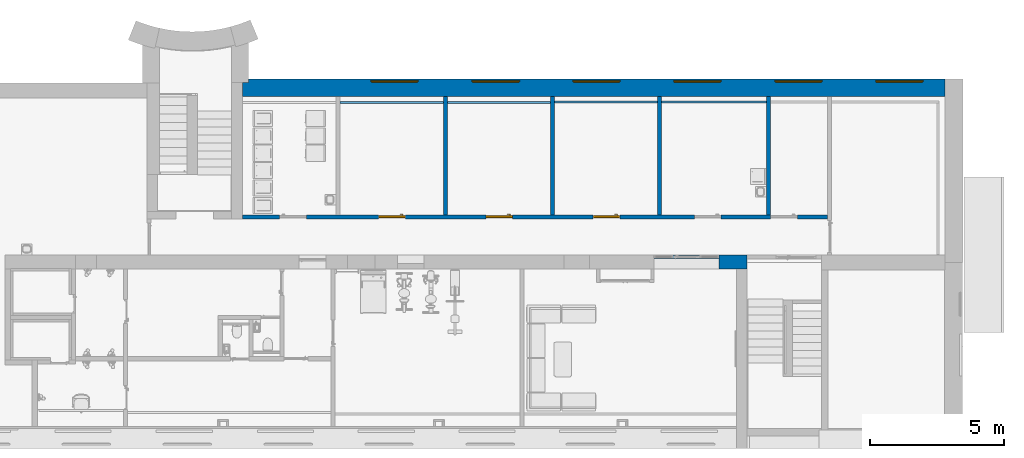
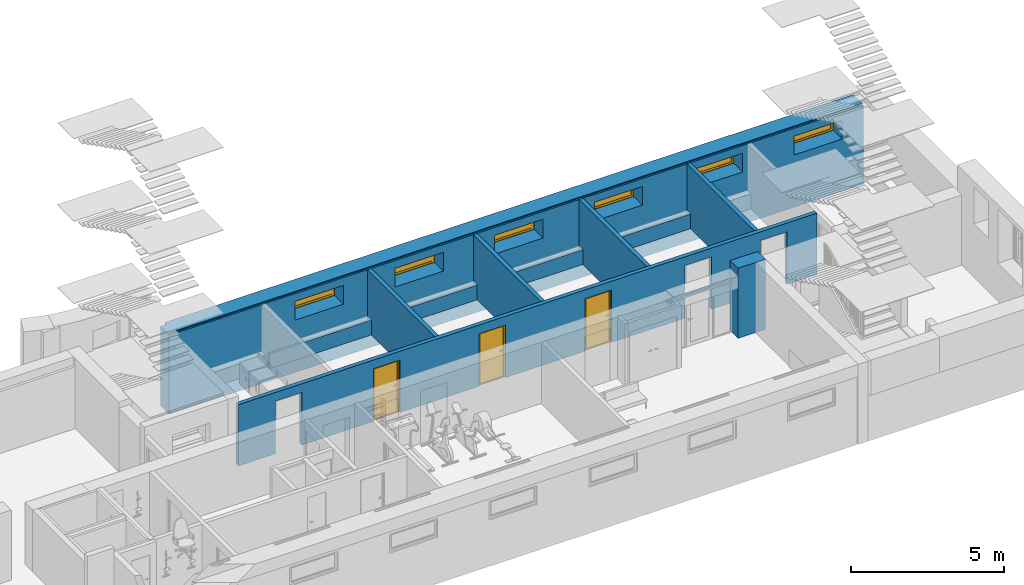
# One storey, part 6 of 23: 12 walls, 6 windows, 3 doors, 14 openings.
"""IFC2X3 building model written with IfcOpenShell, lengths in millimetres."""

from ifc_helpers import new_model, entity, si_unit, converted_unit, derived_unit, direction, frame, frame_2d, origin, origin_2d_with_axis, place, context, subcontext, project, spatial, polyline, rectangle, outline, extrude, clip, bounded_halfspace, faceted_brep, source, transform, mapped, material, material_list, layer, layer_set, layer_usage, type_object, type_shapes, element, fill, save


model = new_model("IFC2X3")

# Units and contexts
model_context = context("Model", 3, precision=0.01, world=origin(), true_north=direction((6.12303176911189e-17, 1.0)))
body_context = subcontext(model_context, "Body", "Model", "MODEL_VIEW")
ifc_project = project(units=[si_unit("LENGTHUNIT", "METRE", prefix="MILLI"), si_unit("AREAUNIT", "SQUARE_METRE"), si_unit("VOLUMEUNIT", "CUBIC_METRE"), converted_unit("PLANEANGLEUNIT", "DEGREE", entity("IfcRatioMeasure", 0.0174532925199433), si_unit("PLANEANGLEUNIT", "RADIAN"), dimensions=[0, 0, 0, 0, 0, 0, 0]), si_unit("MASSUNIT", "GRAM", prefix="KILO"), derived_unit("MASSDENSITYUNIT", [(si_unit("MASSUNIT", "GRAM", prefix="KILO"), 1), (si_unit("LENGTHUNIT", "METRE"), -3)]), si_unit("TIMEUNIT", "SECOND"), si_unit("FREQUENCYUNIT", "HERTZ"), si_unit("THERMODYNAMICTEMPERATUREUNIT", "DEGREE_CELSIUS"), derived_unit("THERMALTRANSMITTANCEUNIT", [(si_unit("MASSUNIT", "GRAM", prefix="KILO"), 1), (si_unit("THERMODYNAMICTEMPERATUREUNIT", "KELVIN"), -1), (si_unit("TIMEUNIT", "SECOND"), -3)]), derived_unit("VOLUMETRICFLOWRATEUNIT", [(si_unit("LENGTHUNIT", "METRE"), 3), (si_unit("TIMEUNIT", "SECOND"), -1)]), si_unit("ELECTRICCURRENTUNIT", "AMPERE"), si_unit("ELECTRICVOLTAGEUNIT", "VOLT"), si_unit("POWERUNIT", "WATT"), si_unit("FORCEUNIT", "NEWTON", prefix="KILO"), si_unit("ILLUMINANCEUNIT", "LUX"), si_unit("LUMINOUSFLUXUNIT", "LUMEN"), si_unit("LUMINOUSINTENSITYUNIT", "CANDELA"), derived_unit("USERDEFINED", [(si_unit("MASSUNIT", "GRAM", prefix="KILO"), -1), (si_unit("LENGTHUNIT", "METRE"), -2), (si_unit("TIMEUNIT", "SECOND"), 3), (si_unit("LUMINOUSFLUXUNIT", "LUMEN"), 1)]), derived_unit("LINEARVELOCITYUNIT", [(si_unit("LENGTHUNIT", "METRE"), 1), (si_unit("TIMEUNIT", "SECOND"), -1)]), si_unit("PRESSUREUNIT", "PASCAL"), derived_unit("USERDEFINED", [(si_unit("LENGTHUNIT", "METRE"), -2), (si_unit("MASSUNIT", "GRAM", prefix="KILO"), 1), (si_unit("TIMEUNIT", "SECOND"), -2)]), derived_unit("LINEARFORCEUNIT", [(si_unit("MASSUNIT", "GRAM", prefix="KILO"), 1), (si_unit("LENGTHUNIT", "METRE"), 1), (si_unit("TIMEUNIT", "SECOND"), -2), (si_unit("LENGTHUNIT", "METRE"), -1)]), derived_unit("PLANARFORCEUNIT", [(si_unit("MASSUNIT", "GRAM", prefix="KILO"), 1), (si_unit("LENGTHUNIT", "METRE"), 1), (si_unit("TIMEUNIT", "SECOND"), -2), (si_unit("LENGTHUNIT", "METRE"), -2)])], contexts=[model_context])

# Site, building, storey
site_placement = place(None, origin())
site = spatial("IfcSite", under=ifc_project, at=site_placement, Name="Default", CompositionType="ELEMENT")
building_placement = place(site_placement, origin())
building = spatial("IfcBuilding", under=site, at=building_placement, Name="SMA ARH", CompositionType="ELEMENT")
storey_placement = place(building_placement, frame((0.0, 0.0, -2800.0)))
storey = spatial("IfcBuildingStorey", under=building, at=storey_placement, Name="0 Sokkel", CompositionType="ELEMENT", Elevation=-2800.0)

# Wall, openings, windows
ifc_material_1 = material(Name="_ol.olev sein")
ifc_layer_1 = layer(ifc_material_1, 665.0)
ifc_layer_set_1 = layer_set([ifc_layer_1], Name="Basic Wall:Generic - 665mm")
ifc_layer_usage_1 = layer_usage(ifc_layer_set_1, "AXIS2", "POSITIVE", -332.5)
wall_type_1 = type_object("IfcWallType", Name="Basic Wall:Generic - 665mm", PredefinedType="STANDARD", material=ifc_layer_set_1)
wall_1_placement = place(storey_placement, frame((38235.0, 12767.4999999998, -696.284035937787), z_axis=(0.0, 0.0, 1.0), x_axis=(-1.0, 0.0, 0.0)))
wall_1 = element("IfcWallStandardCase", 1, at=wall_1_placement, inside=storey, type_object=wall_type_1, material=ifc_layer_usage_1, Name="Basic Wall:Generic - 665mm", ObjectType="Basic Wall:Generic - 665mm", context=body_context, shape_type="Clipping", body=[
    clip(clip(extrude(outline(polyline([(26005.0, -332.499999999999), (26005.0, -207.499999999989), (26235.0, -207.499999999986), (26235.0, 332.5), (0.0, 332.5), (0.0, -332.5), (26005.0, -332.499999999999)])), origin(), (0.0, 0.0, 1.0), 3186.28403593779), bounded_halfspace(frame((0.0, 267.500000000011, 3146.28403593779), z_axis=(0.0, 0.0, -1.0), x_axis=(1.0, 0.0, 0.0)), True, frame((0.0, 267.500000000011, 3146.28403593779), z_axis=(0.0, 0.0, -1.0), x_axis=(1.0, 0.0, 0.0)), polyline([(0.0, 0.0), (0.0, -65.0), (4235.0, -65.0), (4385.0, -65.0), (6515.0, -65.0), (6665.0, -65.0), (10585.0, -65.0), (10735.0, -65.0), (14585.0, -65.0), (14735.0, -65.0), (18585.0, -65.0), (18735.0, -65.0), (22585.0, -65.0), (22735.0, -65.0), (26235.0, -65.0), (26235.0, 0.0), (0.0, 0.0)]))), bounded_halfspace(frame((26235.0, 267.500000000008, 3146.28403593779), z_axis=(0.0, -1.0, 0.0), x_axis=(0.0, 0.0, 1.0)), True, frame((26235.0, 267.500000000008, 3146.28403593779), z_axis=(0.0, -1.0, 0.0), x_axis=(0.0, 0.0, 1.0)), polyline([(0.0, 0.0), (40.0, 0.0), (40.0, 26235.0), (0.0, 26235.0), (0.0, 0.0)]))),
])
opening_1_placement = place(wall_1_placement, frame((21465.0, 332.499999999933, 2086.28403593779)))
opening_1 = element("IfcOpeningElement", 2, at=opening_1_placement, cuts=wall_1, Name="SMA_W1, 1-jaotus1:A-00_1860x750 mm:1", ObjectType="Opening", context=body_context, shape_type="SweptSolid", body=[
    extrude(rectangle(XDim=750.0, YDim=1820.0, at=frame_2d((375.0, 910.000000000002), x_axis=(1.0, 0.0))), frame((0.0, 0.0, 0.0), z_axis=(0.0, -1.0, 0.0), x_axis=(0.0, 0.0, 1.0)), (0.0, 0.0, 1.0), 665.0),
])
opening_2_placement = place(wall_1_placement, frame((17685.0, 332.499999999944, 2086.28403593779)))
opening_2 = element("IfcOpeningElement", 3, at=opening_2_placement, cuts=wall_1, Name="SMA_W1, 1-jaotus1:A-00_1860x750 mm:1", ObjectType="Opening", context=body_context, shape_type="SweptSolid", body=[
    extrude(rectangle(XDim=750.0, YDim=1820.0, at=frame_2d((375.0, 910.000000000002), x_axis=(1.0, 0.0))), frame((0.0, 0.0, 0.0), z_axis=(0.0, -1.0, 0.0), x_axis=(0.0, 0.0, 1.0)), (0.0, 0.0, 1.0), 665.0),
])
opening_3_placement = place(wall_1_placement, frame((13925.0, 332.499999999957, 2086.28403593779)))
opening_3 = element("IfcOpeningElement", 4, at=opening_3_placement, cuts=wall_1, Name="SMA_W1, 1-jaotus1:A-00_1860x750 mm:1", ObjectType="Opening", context=body_context, shape_type="SweptSolid", body=[
    extrude(rectangle(XDim=750.0, YDim=1820.0, at=frame_2d((375.0, 910.000000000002), x_axis=(1.0, 0.0))), frame((0.0, 0.0, 0.0), z_axis=(0.0, -1.0, 0.0), x_axis=(0.0, 0.0, 1.0)), (0.0, 0.0, 1.0), 665.0),
])
opening_4_placement = place(wall_1_placement, frame((10160.0, 332.499999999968, 2086.28403593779)))
opening_4 = element("IfcOpeningElement", 5, at=opening_4_placement, cuts=wall_1, Name="SMA_W1, 1-jaotus1:A-00_1860x750 mm:1", ObjectType="Opening", context=body_context, shape_type="SweptSolid", body=[
    extrude(rectangle(XDim=750.0, YDim=1820.0, at=frame_2d((375.0, 910.000000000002), x_axis=(1.0, 0.0))), frame((0.0, 0.0, 0.0), z_axis=(0.0, -1.0, 0.0), x_axis=(0.0, 0.0, 1.0)), (0.0, 0.0, 1.0), 665.0),
])
opening_5_placement = place(wall_1_placement, frame((6385.0, 332.499999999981, 2086.28403593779)))
opening_5 = element("IfcOpeningElement", 6, at=opening_5_placement, cuts=wall_1, Name="SMA_W1, 1-jaotus1:A-00_1860x750 mm:1", ObjectType="Opening", context=body_context, shape_type="SweptSolid", body=[
    extrude(rectangle(XDim=750.0, YDim=1820.0, at=frame_2d((375.0, 910.000000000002), x_axis=(1.0, 0.0))), frame((0.0, 0.0, 0.0), z_axis=(0.0, -1.0, 0.0), x_axis=(0.0, 0.0, 1.0)), (0.0, 0.0, 1.0), 665.0),
])
opening_6_placement = place(wall_1_placement, frame((2620.0, 332.499999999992, 2086.28403593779)))
opening_6 = element("IfcOpeningElement", 7, at=opening_6_placement, cuts=wall_1, Name="SMA_W1, 1-jaotus1:A-00_1860x750 mm:1", ObjectType="Opening", context=body_context, shape_type="SweptSolid", body=[
    extrude(rectangle(XDim=750.0, YDim=1820.0, at=frame_2d((375.0, 910.000000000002), x_axis=(1.0, 0.0))), frame((0.0, 0.0, 0.0), z_axis=(0.0, -1.0, 0.0), x_axis=(0.0, 0.0, 1.0)), (0.0, 0.0, 1.0), 665.0),
])
ifc_material_2 = material(Name="EST. Klaas. 3x. Default")
ifc_material_3 = material(Name="Default")
ifc_material_list_1 = material_list([ifc_material_2, ifc_material_3])
ifc_material_4 = material(Name="<Unnamed>")
ifc_material_list_2 = material_list([ifc_material_3, ifc_material_4, ifc_material_3, ifc_material_4, ifc_material_2])
window_style = type_object("IfcWindowStyle", Name="SMA_W1, 1-jaotus1:A-00_1860x750 mm", ConstructionType="NOTDEFINED", OperationType="NOTDEFINED", ParameterTakesPrecedence=False, Sizeable=False, material=ifc_material_list_2)
shared_shape_1 = source(origin(), body_context, "Body", "SweptSolid", [
    extrude(rectangle(XDim=20.0, YDim=1590.0, at=frame_2d((0.0, 5.6843418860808e-14), x_axis=(1.0, 0.0))), frame((910.0, 565.0, 115.0), z_axis=(0.0, 0.0, 1.0), x_axis=(0.0, 1.0, 0.0)), (0.0, 0.0, 1.0), 520.0),
    extrude(outline(polyline([(-330.0, -865.0), (330.0, -865.0), (330.0, 865.0), (-330.0, 865.0), (-330.0, -865.0)]), holes=[polyline([(260.0, 795.0), (260.0, -795.0), (-260.0, -795.0), (-260.0, 795.0), (260.0, 795.0)])]), frame((910.0, 540.0, 375.0), z_axis=(0.0, 1.0, 0.0), x_axis=(0.0, 0.0, 1.0)), (0.0, 0.0, 1.0), 50.0),
    extrude(outline(polyline([(-365.0, -900.0), (365.0, -900.0), (365.0, 900.0), (-365.0, 900.0), (-365.0, -900.0)]), holes=[polyline([(-295.0, -830.0), (-295.0, 830.0), (295.0, 830.0), (295.0, -830.0), (-295.0, -830.0)])]), frame((910.0, 565.0, 375.0), z_axis=(0.0, 1.0, 0.0), x_axis=(0.0, 0.0, 1.0)), (0.0, 0.0, 1.0), 50.0),
])
type_shapes(window_style, [shared_shape_1])
window_1_placement = place(opening_1_placement, frame((0.0, 0.0, 0.0), z_axis=(0.0, 0.0, 1.0), x_axis=(-1.0, 0.0, 0.0)))
window_1 = element("IfcWindow", 8, at=window_1_placement, inside=storey, type_object=window_style, material=ifc_material_list_1, Name="SMA_W1, 1-jaotus1:A-00_1860x750 mm", ObjectType="SMA_W1, 1-jaotus1:A-00_1860x750 mm", OverallHeight=750.0, OverallWidth=1820.0, context=body_context, shape_type="MappedRepresentation", body=[
    mapped(shared_shape_1, transform((0.0, 0.0, 0.0), scale=1.0)),
])
fill(opening_1, window_1)
ifc_material_list_3 = material_list([ifc_material_2, ifc_material_3])
window_2_placement = place(opening_2_placement, frame((0.0, 0.0, 0.0), z_axis=(0.0, 0.0, 1.0), x_axis=(-1.0, 0.0, 0.0)))
window_2 = element("IfcWindow", 9, at=window_2_placement, inside=storey, type_object=window_style, material=ifc_material_list_3, Name="SMA_W1, 1-jaotus1:A-00_1860x750 mm", ObjectType="SMA_W1, 1-jaotus1:A-00_1860x750 mm", OverallHeight=750.0, OverallWidth=1820.0, context=body_context, shape_type="MappedRepresentation", body=[
    mapped(shared_shape_1, transform((0.0, 0.0, 0.0), scale=1.0)),
])
fill(opening_2, window_2)
ifc_material_list_4 = material_list([ifc_material_2, ifc_material_3])
window_3_placement = place(opening_3_placement, frame((0.0, 0.0, 0.0), z_axis=(0.0, 0.0, 1.0), x_axis=(-1.0, 0.0, 0.0)))
window_3 = element("IfcWindow", 10, at=window_3_placement, inside=storey, type_object=window_style, material=ifc_material_list_4, Name="SMA_W1, 1-jaotus1:A-00_1860x750 mm", ObjectType="SMA_W1, 1-jaotus1:A-00_1860x750 mm", OverallHeight=750.0, OverallWidth=1820.0, context=body_context, shape_type="MappedRepresentation", body=[
    mapped(shared_shape_1, transform((0.0, 0.0, 0.0), scale=1.0)),
])
fill(opening_3, window_3)
ifc_material_list_5 = material_list([ifc_material_2, ifc_material_3])
window_4_placement = place(opening_4_placement, frame((0.0, 0.0, 0.0), z_axis=(0.0, 0.0, 1.0), x_axis=(-1.0, 0.0, 0.0)))
window_4 = element("IfcWindow", 11, at=window_4_placement, inside=storey, type_object=window_style, material=ifc_material_list_5, Name="SMA_W1, 1-jaotus1:A-00_1860x750 mm", ObjectType="SMA_W1, 1-jaotus1:A-00_1860x750 mm", OverallHeight=750.0, OverallWidth=1820.0, context=body_context, shape_type="MappedRepresentation", body=[
    mapped(shared_shape_1, transform((0.0, 0.0, 0.0), scale=1.0)),
])
fill(opening_4, window_4)
ifc_material_list_6 = material_list([ifc_material_2, ifc_material_3])
window_5_placement = place(opening_5_placement, frame((0.0, 0.0, 0.0), z_axis=(0.0, 0.0, 1.0), x_axis=(-1.0, 0.0, 0.0)))
window_5 = element("IfcWindow", 12, at=window_5_placement, inside=storey, type_object=window_style, material=ifc_material_list_6, Name="SMA_W1, 1-jaotus1:A-00_1860x750 mm", ObjectType="SMA_W1, 1-jaotus1:A-00_1860x750 mm", OverallHeight=750.0, OverallWidth=1820.0, context=body_context, shape_type="MappedRepresentation", body=[
    mapped(shared_shape_1, transform((0.0, 0.0, 0.0), scale=1.0)),
])
fill(opening_5, window_5)
ifc_material_list_7 = material_list([ifc_material_2, ifc_material_3])
window_6_placement = place(opening_6_placement, frame((0.0, 0.0, 0.0), z_axis=(0.0, 0.0, 1.0), x_axis=(-1.0, 0.0, 0.0)))
window_6 = element("IfcWindow", 13, at=window_6_placement, inside=storey, type_object=window_style, material=ifc_material_list_7, Name="SMA_W1, 1-jaotus1:A-00_1860x750 mm", ObjectType="SMA_W1, 1-jaotus1:A-00_1860x750 mm", OverallHeight=750.0, OverallWidth=1820.0, context=body_context, shape_type="MappedRepresentation", body=[
    mapped(shared_shape_1, transform((0.0, 0.0, 0.0), scale=1.0)),
])
fill(opening_6, window_6)

# Wall
ifc_layer_2 = layer(ifc_material_1, 510.0)
ifc_layer_set_2 = layer_set([ifc_layer_2], Name="Basic Wall:Generic - 510mm")
ifc_layer_usage_2 = layer_usage(ifc_layer_set_2, "AXIS2", "POSITIVE", -255.0)
wall_type_2 = type_object("IfcWallType", Name="Basic Wall:Generic - 510mm", PredefinedType="STANDARD", material=ifc_layer_set_2)
wall_2_placement = place(storey_placement, frame((29789.524249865, 6265.0, 0.0)))
element("IfcWallStandardCase", 14, at=wall_2_placement, inside=storey, type_object=wall_type_2, material=ifc_layer_usage_2, Name="Basic Wall:Generic - 510mm", ObjectType="Basic Wall:Generic - 510mm", context=body_context, shape_type="SweptSolid", body=[
    extrude(rectangle(XDim=1040.47575013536, YDim=510.000000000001, at=frame_2d((520.23787506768, 4.2632564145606e-14), x_axis=(-1.0, 0.0))), origin(), (0.0, 0.0, 1.0), 2800.0),
])

# Wall, openings
ifc_material_5 = material(Name="EST. Ehitusplaat. Kipsplaat")
ifc_layer_3 = layer(ifc_material_5, 12.5)
ifc_layer_4 = layer(ifc_material_5, 12.5)
ifc_material_6 = material(Name="EST. Õhkvahe. Roov. Kipsplaadi alusroov. Vertikaalne")
ifc_layer_5 = layer(ifc_material_6, 66.0)
ifc_layer_6 = layer(ifc_material_5, 12.5)
ifc_layer_7 = layer(ifc_material_5, 12.5)
ifc_layer_set_3 = layer_set([ifc_layer_3, ifc_layer_4, ifc_layer_5, ifc_layer_6, ifc_layer_7], Name="Basic Wall:SS-03_Kips, 66mm metallkarkass")
ifc_layer_usage_3 = layer_usage(ifc_layer_set_3, "AXIS2", "NEGATIVE", 58.0)
wall_type_3 = type_object("IfcWallType", Name="Basic Wall:SS-03_Kips, 66mm metallkarkass", PredefinedType="STANDARD", material=ifc_layer_set_3)
wall_3_placement = place(storey_placement, frame((27360.0, 6462.0, 2000.0)))
wall_3 = element("IfcWallStandardCase", 15, at=wall_3_placement, inside=storey, type_object=wall_type_3, material=ifc_layer_usage_3, Name="Basic Wall:SS-03_Kips, 66mm metallkarkass", ObjectType="Basic Wall:SS-03_Kips, 66mm metallkarkass", context=body_context, shape_type="SweptSolid", body=[
    extrude(rectangle(XDim=2429.52424986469, YDim=116.0, at=frame_2d((1214.76212493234, -2.8421709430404e-14), x_axis=(-1.0, 0.0))), origin(), (0.0, 0.0, 1.0), 100.0),
])
opening_7_placement = place(wall_3_placement, origin())
element("IfcOpeningElement", 16, at=opening_7_placement, cuts=wall_3, Name="Basic Wall:SS-03_Kips, 66mm metallkarkass", ObjectType="Opening", context=body_context, shape_type="SweptSolid", body=[
    extrude(rectangle(XDim=2000.0, YDim=715.000000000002, at=origin_2d_with_axis()), frame((2072.02424986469, -210.4, -1000.0), z_axis=(0.0, 1.0, 0.0), x_axis=(0.0, 0.0, -1.0)), (0.0, 0.0, 1.0), 420.8),
    extrude(rectangle(XDim=2000.0, YDim=714.524249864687, at=frame_2d((-1.70530256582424e-13, 0.0), x_axis=(1.0, 0.0))), frame((357.262124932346, -210.4, -1000.0), z_axis=(0.0, 1.0, 0.0), x_axis=(0.0, 0.0, 1.0)), (0.0, 0.0, 1.0), 420.8),
])
opening_8_placement = place(wall_3_placement, frame((1714.524249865, 58.0, -2000.0)))
element("IfcOpeningElement", 17, at=opening_8_placement, cuts=wall_3, Name="SMA_D01, 1-poolne:SU-P-10 - 1000x2000:1", ObjectType="Opening", context=body_context, shape_type="SweptSolid", body=[
    extrude(rectangle(XDim=1999.99999999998, YDim=1000.0, at=frame_2d((999.99999999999, 500.0), x_axis=(1.0, 0.0))), frame((0.0, 0.0, 0.0), z_axis=(0.0, -1.0, 0.0), x_axis=(0.0, 0.0, 1.0)), (0.0, 0.0, 1.0), 116.0),
])

# Wall
ifc_material_7 = material(Name="EST. Müüritis. Väikeplokk. Kergkruusplokk")
ifc_layer_8 = layer(ifc_material_7, 150.0)
ifc_layer_set_4 = layer_set([ifc_layer_8], Name="Basic Wall:SS-01_ 150mm soklikorruse seinad")
ifc_layer_usage_4 = layer_usage(ifc_layer_set_4, "AXIS2", "NEGATIVE", 75.0)
wall_type_4 = type_object("IfcWallType", Name="Basic Wall:SS-01_ 150mm soklikorruse seinad", PredefinedType="STANDARD", material=ifc_layer_set_4)
wall_4_placement = place(storey_placement, frame((31645.0, 12435.0, 0.0), z_axis=(0.0, 0.0, 1.0), x_axis=(0.0, -1.0, 0.0)))
element("IfcWallStandardCase", 18, at=wall_4_placement, inside=storey, type_object=wall_type_4, material=ifc_layer_usage_4, Name="Basic Wall:SS-01_ 150mm soklikorruse seinad", ObjectType="Basic Wall:SS-01_ 150mm soklikorruse seinad", context=body_context, shape_type="SweptSolid", body=[
    extrude(rectangle(XDim=4410.00000000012, YDim=150.000000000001, at=frame_2d((2205.00000000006, 1.35003119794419e-13), x_axis=(-1.0, 0.0))), origin(), (0.0, 0.0, 1.0), 2450.0),
])

# Wall, openings, doors
ifc_layer_usage_5 = layer_usage(ifc_layer_set_4, "AXIS2", "NEGATIVE", 75.0)
wall_5_placement = place(storey_placement, frame((12000.0, 7950.0, 0.0)))
wall_5 = element("IfcWallStandardCase", 19, at=wall_5_placement, inside=storey, type_object=wall_type_4, material=ifc_layer_usage_5, Name="Basic Wall:SS-01_ 150mm soklikorruse seinad", ObjectType="Basic Wall:SS-01_ 150mm soklikorruse seinad", context=body_context, shape_type="SweptSolid", body=[
    extrude(rectangle(XDim=21850.0, YDim=150.000000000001, at=frame_2d((10925.0, -1.91846538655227e-13), x_axis=(-1.0, 0.0))), origin(), (0.0, 0.0, 1.0), 2450.0),
])
opening_9_placement = place(wall_5_placement, frame((1390.0, -75.0, 0.0)))
element("IfcOpeningElement", 20, at=opening_9_placement, cuts=wall_5, Name="SMA_D01, 1-poolne:SU-M-02 - 1000x2100 EI-30:1", ObjectType="Opening", context=body_context, shape_type="SweptSolid", body=[
    extrude(rectangle(XDim=2099.99999999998, YDim=1000.0, at=frame_2d((1049.99999999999, 500.0), x_axis=(1.0, 0.0))), frame((0.0, 0.0, 0.0), z_axis=(0.0, 1.0, 0.0), x_axis=(0.0, 0.0, 1.0)), (0.0, 0.0, 1.0), 150.0),
])
opening_10_placement = place(wall_5_placement, frame((5090.0, -75.0, 0.0)))
opening_10 = element("IfcOpeningElement", 21, at=opening_10_placement, cuts=wall_5, Name="SMA_D01, 1-poolne:SU-M-04 - 1000x2100 EI-60:1", ObjectType="Opening", context=body_context, shape_type="SweptSolid", body=[
    extrude(rectangle(XDim=2099.99999999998, YDim=1000.0, at=frame_2d((1049.99999999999, 500.0), x_axis=(1.0, 0.0))), frame((0.0, 0.0, 0.0), z_axis=(0.0, 1.0, 0.0), x_axis=(0.0, 0.0, 1.0)), (0.0, 0.0, 1.0), 150.0),
])
opening_11_placement = place(wall_5_placement, frame((9090.0, -75.0, 0.0)))
opening_11 = element("IfcOpeningElement", 22, at=opening_11_placement, cuts=wall_5, Name="SMA_D01, 1-poolne:SU-M-04 - 1000x2100 EI-60:1", ObjectType="Opening", context=body_context, shape_type="SweptSolid", body=[
    extrude(rectangle(XDim=2099.99999999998, YDim=1000.0, at=frame_2d((1049.99999999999, 500.0), x_axis=(1.0, 0.0))), frame((0.0, 0.0, 0.0), z_axis=(0.0, 1.0, 0.0), x_axis=(0.0, 0.0, 1.0)), (0.0, 0.0, 1.0), 150.0),
])
opening_12_placement = place(wall_5_placement, frame((13090.0, -75.0, 0.0)))
opening_12 = element("IfcOpeningElement", 23, at=opening_12_placement, cuts=wall_5, Name="SMA_D01, 1-poolne:SU-M-04 - 1000x2100 EI-60:1", ObjectType="Opening", context=body_context, shape_type="SweptSolid", body=[
    extrude(rectangle(XDim=2099.99999999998, YDim=1000.0, at=frame_2d((1049.99999999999, 500.0), x_axis=(1.0, 0.0))), frame((0.0, 0.0, 0.0), z_axis=(0.0, 1.0, 0.0), x_axis=(0.0, 0.0, 1.0)), (0.0, 0.0, 1.0), 150.0),
])
opening_13_placement = place(wall_5_placement, frame((16870.0, -75.0, 0.0)))
element("IfcOpeningElement", 24, at=opening_13_placement, cuts=wall_5, Name="SMA_D01, 1-poolne:SU-M-03 - 1000x2100:1", ObjectType="Opening", context=body_context, shape_type="SweptSolid", body=[
    extrude(rectangle(XDim=2099.99999999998, YDim=1000.0, at=frame_2d((1049.99999999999, 500.0), x_axis=(1.0, 0.0))), frame((0.0, 0.0, 0.0), z_axis=(0.0, 1.0, 0.0), x_axis=(0.0, 0.0, 1.0)), (0.0, 0.0, 1.0), 150.0),
])
opening_14_placement = place(wall_5_placement, frame((19720.0, -75.0, 0.0)))
element("IfcOpeningElement", 25, at=opening_14_placement, cuts=wall_5, Name="SMA_D01, 1-poolne:SU-M-02 - 1000x2100 EI-30:1", ObjectType="Opening", context=body_context, shape_type="SweptSolid", body=[
    extrude(rectangle(XDim=2099.99999999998, YDim=1000.0, at=frame_2d((1049.99999999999, 499.999999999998), x_axis=(1.0, 0.0))), frame((0.0, 0.0, 0.0), z_axis=(0.0, 1.0, 0.0), x_axis=(0.0, 0.0, 1.0)), (0.0, 0.0, 1.0), 150.0),
])
ifc_material_8 = material(Name="EST. Metall. Alumiinium. Värvitud. RAL7023 (Concrete grey)")
ifc_material_list_8 = material_list([ifc_material_2, ifc_material_8, ifc_material_4, ifc_material_8, ifc_material_4, ifc_material_8, ifc_material_4])
door_style = type_object("IfcDoorStyle", Name="SMA_D01, 1-poolne:SU-M-04 - 1000x2100 EI-60", ConstructionType="NOTDEFINED", OperationType="NOTDEFINED", ParameterTakesPrecedence=False, Sizeable=False, material=ifc_material_list_8)
shared_shape_2 = source(origin(), body_context, "Body", "Brep", [
    faceted_brep([(890.0, 40.0, 1112.5), (795.0, 40.0, 1112.5), (795.0, 35.0, 1112.5), (915.0, 35.0, 1112.5), (915.0, 78.0, 1112.5), (890.0, 78.0, 1112.5), (890.0, 40.0, 1087.5), (890.0, 78.0, 1087.5), (915.0, 78.0, 1087.5), (915.0, 35.0, 1087.5), (795.0, 35.0, 1087.5), (795.0, 40.0, 1087.5)], [[[0, 1, 2, 3, 4, 5]], [[6, 7, 8, 9, 10, 11]], [[5, 7, 6, 0]], [[4, 8, 7, 5]], [[3, 9, 8, 4]], [[2, 10, 9, 3]], [[1, 11, 10, 2]], [[0, 6, 11, 1]]]),
    faceted_brep([(877.500000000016, 78.0, 1137.5), (927.500000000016, 78.0, 1137.5), (927.500000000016, 80.0, 1137.5), (877.500000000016, 80.0, 1137.5), (877.500000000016, 78.0, 1017.5), (877.500000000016, 80.0, 1017.5), (927.500000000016, 80.0, 1017.5), (927.500000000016, 78.0, 1017.5)], [[[0, 1, 2, 3]], [[4, 5, 6, 7]], [[3, 5, 4, 0]], [[2, 6, 5, 3]], [[1, 7, 6, 2]], [[0, 4, 7, 1]]]),
    faceted_brep([(890.0, 170.0, 1112.5), (890.0, 132.0, 1112.5), (915.0, 132.0, 1112.5), (915.0, 175.0, 1112.5), (795.0, 175.0, 1112.5), (795.0, 170.0, 1112.5), (890.0, 170.0, 1087.5), (795.0, 170.0, 1087.5), (795.0, 175.0, 1087.5), (915.0, 175.0, 1087.5), (915.0, 132.0, 1087.5), (890.0, 132.0, 1087.5)], [[[0, 1, 2, 3, 4, 5]], [[6, 7, 8, 9, 10, 11]], [[1, 0, 6, 11]], [[2, 1, 11, 10]], [[3, 2, 10, 9]], [[4, 3, 9, 8]], [[5, 4, 8, 7]], [[0, 5, 7, 6]]]),
    faceted_brep([(877.500000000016, 132.0, 1137.5), (877.500000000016, 130.0, 1137.5), (927.500000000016, 130.0, 1137.5), (927.500000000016, 132.0, 1137.5), (877.500000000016, 132.0, 1017.5), (927.500000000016, 132.0, 1017.5), (927.500000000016, 130.0, 1017.5), (877.500000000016, 130.0, 1017.5)], [[[0, 1, 2, 3]], [[4, 5, 6, 7]], [[1, 0, 4, 7]], [[2, 1, 7, 6]], [[3, 2, 6, 5]], [[0, 3, 5, 4]]]),
    faceted_brep([(50.0, 40.0, 30.0), (50.0, 80.0, 30.0), (50.0, 80.0, 20.0), (50.0, 80.0, 0.0), (50.0, 40.0, 0.0), (950.0, 40.0, 30.0), (950.0, 40.0, 0.0), (950.0, 80.0, 0.0), (950.0, 80.0, 20.0), (950.0, 80.0, 30.0), (35.0, 80.0, 0.0), (35.0, 130.0, 0.0), (965.0, 130.0, 0.0), (965.0, 80.0, 0.0), (35.0, 130.0, 20.0), (35.0, 80.0, 20.0), (965.0, 130.0, 20.0), (965.0, 80.0, 20.0)], [[[0, 1, 2, 3, 4]], [[5, 6, 7, 8, 9]], [[4, 6, 5, 0]], [[3, 10, 11, 12, 13, 7, 6, 4]], [[9, 8, 2, 1]], [[0, 5, 9, 1]], [[14, 11, 10, 15]], [[16, 17, 13, 12]], [[15, 2, 8, 17, 16, 14]], [[10, 3, 2, 15]], [[14, 16, 12, 11]], [[17, 8, 7, 13]]]),
    faceted_brep([(10.0, 40.0, 0.0), (10.0, 130.0, 0.0), (35.0, 130.0, 0.0), (35.0, 80.0, 0.0), (50.0, 80.0, 0.0), (50.0, 40.0, 0.0), (50.0, 40.0, 2050.0), (950.0, 40.0, 2050.0), (950.0, 40.0, 0.0), (990.0, 40.0, 0.0), (990.0, 40.0, 2090.0), (10.0, 40.0, 2090.0), (50.0, 80.0, 2050.0), (35.0, 80.0, 2065.0), (965.0, 80.0, 2065.0), (965.0, 80.0, 0.0), (950.0, 80.0, 0.0), (950.0, 80.0, 2050.0), (35.0, 130.0, 2065.0), (10.0, 130.0, 2090.0), (990.0, 130.0, 2090.0), (990.0, 130.0, 0.0), (965.0, 130.0, 0.0), (965.0, 130.0, 2065.0)], [[[0, 1, 2, 3, 4, 5]], [[5, 6, 7, 8, 9, 10, 11, 0]], [[4, 12, 6, 5]], [[3, 13, 14, 15, 16, 17, 12, 4]], [[2, 18, 13, 3]], [[1, 19, 20, 21, 22, 23, 18, 2]], [[0, 11, 19, 1]], [[9, 21, 20, 10]], [[8, 16, 15, 22, 21, 9]], [[7, 17, 16, 8]], [[14, 23, 22, 15]], [[6, 12, 17, 7]], [[13, 18, 23, 14]], [[10, 20, 19, 11]]]),
    faceted_brep([(965.0, 80.0, 2065.0), (35.0, 80.0, 2065.0), (35.0, 80.0, 20.0), (965.0, 80.0, 20.0), (965.0, 130.0, 2065.0), (965.0, 130.0, 20.0), (35.0, 130.0, 20.0), (35.0, 130.0, 2065.0)], [[[0, 1, 2, 3]], [[4, 5, 6, 7]], [[3, 5, 4, 0]], [[2, 6, 5, 3]], [[1, 7, 6, 2]], [[0, 4, 7, 1]]]),
])
type_shapes(door_style, [shared_shape_2])
door_1_placement = place(opening_10_placement, origin())
door_1 = element("IfcDoor", 26, at=door_1_placement, inside=storey, type_object=door_style, material=ifc_material_8, Name="SMA_D01, 1-poolne:SU-M-04 - 1000x2100 EI-60", ObjectType="SMA_D01, 1-poolne:SU-M-04 - 1000x2100 EI-60", OverallHeight=2099.99999999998, OverallWidth=1000.0, context=body_context, shape_type="MappedRepresentation", body=[
    mapped(shared_shape_2, transform((0.0, 0.0, 0.0), scale=1.0)),
])
fill(opening_10, door_1)
door_2_placement = place(opening_11_placement, origin())
door_2 = element("IfcDoor", 27, at=door_2_placement, inside=storey, type_object=door_style, material=ifc_material_8, Name="SMA_D01, 1-poolne:SU-M-04 - 1000x2100 EI-60", ObjectType="SMA_D01, 1-poolne:SU-M-04 - 1000x2100 EI-60", OverallHeight=2099.99999999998, OverallWidth=999.999999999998, context=body_context, shape_type="MappedRepresentation", body=[
    mapped(shared_shape_2, transform((0.0, 0.0, 0.0), scale=1.0)),
])
fill(opening_11, door_2)
door_3_placement = place(opening_12_placement, origin())
door_3 = element("IfcDoor", 28, at=door_3_placement, inside=storey, type_object=door_style, material=ifc_material_8, Name="SMA_D01, 1-poolne:SU-M-04 - 1000x2100 EI-60", ObjectType="SMA_D01, 1-poolne:SU-M-04 - 1000x2100 EI-60", OverallHeight=2099.99999999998, OverallWidth=999.999999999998, context=body_context, shape_type="MappedRepresentation", body=[
    mapped(shared_shape_2, transform((0.0, 0.0, 0.0), scale=1.0)),
])
fill(opening_12, door_3)

# Walls
ifc_layer_usage_6 = layer_usage(ifc_layer_set_4, "AXIS2", "NEGATIVE", 75.0)
wall_6_placement = place(storey_placement, frame((27575.0, 12435.0, 0.0), z_axis=(0.0, 0.0, 1.0), x_axis=(0.0, -1.0, 0.0)))
element("IfcWallStandardCase", 29, at=wall_6_placement, inside=storey, type_object=wall_type_4, material=ifc_layer_usage_6, Name="Basic Wall:SS-01_ 150mm soklikorruse seinad", ObjectType="Basic Wall:SS-01_ 150mm soklikorruse seinad", context=body_context, shape_type="SweptSolid", body=[
    extrude(rectangle(XDim=4410.00000000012, YDim=150.000000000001, at=frame_2d((2205.00000000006, 1.70530256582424e-13), x_axis=(-1.0, 0.0))), origin(), (0.0, 0.0, 1.0), 2450.0),
])
ifc_layer_usage_7 = layer_usage(ifc_layer_set_4, "AXIS2", "NEGATIVE", 75.0)
wall_7_placement = place(storey_placement, frame((23575.0, 8025.0, 0.0), z_axis=(0.0, 0.0, 1.0), x_axis=(0.0, 1.0, 0.0)))
element("IfcWallStandardCase", 30, at=wall_7_placement, inside=storey, type_object=wall_type_4, material=ifc_layer_usage_7, Name="Basic Wall:SS-01_ 150mm soklikorruse seinad", ObjectType="Basic Wall:SS-01_ 150mm soklikorruse seinad", context=body_context, shape_type="SweptSolid", body=[
    extrude(rectangle(XDim=4410.00000000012, YDim=150.000000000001, at=frame_2d((2205.00000000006, 1.70530256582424e-13), x_axis=(-1.0, 0.0))), origin(), (0.0, 0.0, 1.0), 2450.0),
])
ifc_layer_usage_8 = layer_usage(ifc_layer_set_4, "AXIS2", "NEGATIVE", 75.0)
wall_8_placement = place(storey_placement, frame((19575.0, 8025.0, 0.0), z_axis=(0.0, 0.0, 1.0), x_axis=(0.0, 1.0, 0.0)))
element("IfcWallStandardCase", 31, at=wall_8_placement, inside=storey, type_object=wall_type_4, material=ifc_layer_usage_8, Name="Basic Wall:SS-01_ 150mm soklikorruse seinad", ObjectType="Basic Wall:SS-01_ 150mm soklikorruse seinad", context=body_context, shape_type="SweptSolid", body=[
    extrude(rectangle(XDim=4410.00000000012, YDim=150.000000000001, at=frame_2d((2205.00000000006, 1.70530256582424e-13), x_axis=(-1.0, 0.0))), origin(), (0.0, 0.0, 1.0), 2450.0),
])
ifc_layer_9 = layer(ifc_material_5, 12.5)
ifc_layer_10 = layer(ifc_material_5, 12.5)
ifc_layer_11 = layer(ifc_material_6, 50.0)
ifc_layer_set_5 = layer_set([ifc_layer_9, ifc_layer_10, ifc_layer_11], Name="Basic Wall:SS-00_Kips, 50mm metallkarkass ühe poolne")
ifc_layer_usage_9 = layer_usage(ifc_layer_set_5, "AXIS2", "POSITIVE", -37.5)
wall_type_5 = type_object("IfcWallType", Name="Basic Wall:SS-00_Kips, 50mm metallkarkass ühe poolne", PredefinedType="STANDARD", material=ifc_layer_set_5)
wall_9_placement = place(storey_placement, frame((15650.0, 12217.4999999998, 0.0)))
element("IfcWallStandardCase", 32, at=wall_9_placement, inside=storey, type_object=wall_type_5, material=ifc_layer_usage_9, Name="Basic Wall:SS-00_Kips, 50mm metallkarkass ühe poolne", ObjectType="Basic Wall:SS-00_Kips, 50mm metallkarkass ühe poolne", context=body_context, shape_type="SweptSolid", body=[
    extrude(rectangle(XDim=3849.99999999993, YDim=75.0000000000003, at=frame_2d((1924.99999999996, -4.54747350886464e-13), x_axis=(-1.0, 0.0))), origin(), (0.0, 0.0, 1.0), 590.0),
])
ifc_layer_usage_10 = layer_usage(ifc_layer_set_5, "AXIS2", "NEGATIVE", 37.5)
wall_10_placement = place(storey_placement, frame((23500.0, 12217.4999999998, 0.0), z_axis=(0.0, 0.0, 1.0), x_axis=(-1.0, 0.0, 0.0)))
element("IfcWallStandardCase", 33, at=wall_10_placement, inside=storey, type_object=wall_type_5, material=ifc_layer_usage_10, Name="Basic Wall:SS-00_Kips, 50mm metallkarkass ühe poolne", ObjectType="Basic Wall:SS-00_Kips, 50mm metallkarkass ühe poolne", context=body_context, shape_type="SweptSolid", body=[
    extrude(rectangle(XDim=3850.0, YDim=75.0000000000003, at=frame_2d((1925.0, 4.54747350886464e-13), x_axis=(-1.0, 0.0))), origin(), (0.0, 0.0, 1.0), 590.0),
])
ifc_layer_usage_11 = layer_usage(ifc_layer_set_5, "AXIS2", "POSITIVE", -37.5)
wall_11_placement = place(storey_placement, frame((23650.0, 12237.4999999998, 0.0)))
element("IfcWallStandardCase", 34, at=wall_11_placement, inside=storey, type_object=wall_type_5, material=ifc_layer_usage_11, Name="Basic Wall:SS-00_Kips, 50mm metallkarkass ühe poolne", ObjectType="Basic Wall:SS-00_Kips, 50mm metallkarkass ühe poolne", context=body_context, shape_type="SweptSolid", body=[
    extrude(rectangle(XDim=3849.99999999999, YDim=75.0000000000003, at=frame_2d((1925.0, -4.54747350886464e-13), x_axis=(-1.0, 0.0))), origin(), (0.0, 0.0, 1.0), 590.0),
])
ifc_layer_usage_12 = layer_usage(ifc_layer_set_5, "AXIS2", "NEGATIVE", 37.5)
wall_12_placement = place(storey_placement, frame((31570.0, 12237.4999999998, 0.0), z_axis=(0.0, 0.0, 1.0), x_axis=(-1.0, 0.0, 0.0)))
element("IfcWallStandardCase", 35, at=wall_12_placement, inside=storey, type_object=wall_type_5, material=ifc_layer_usage_12, Name="Basic Wall:SS-00_Kips, 50mm metallkarkass ühe poolne", ObjectType="Basic Wall:SS-00_Kips, 50mm metallkarkass ühe poolne", context=body_context, shape_type="SweptSolid", body=[
    extrude(rectangle(XDim=3920.00000000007, YDim=75.0000000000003, at=frame_2d((1960.00000000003, 5.43565192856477e-13), x_axis=(-1.0, 0.0))), origin(), (0.0, 0.0, 1.0), 590.0),
])

save(model, "model.ifc")
